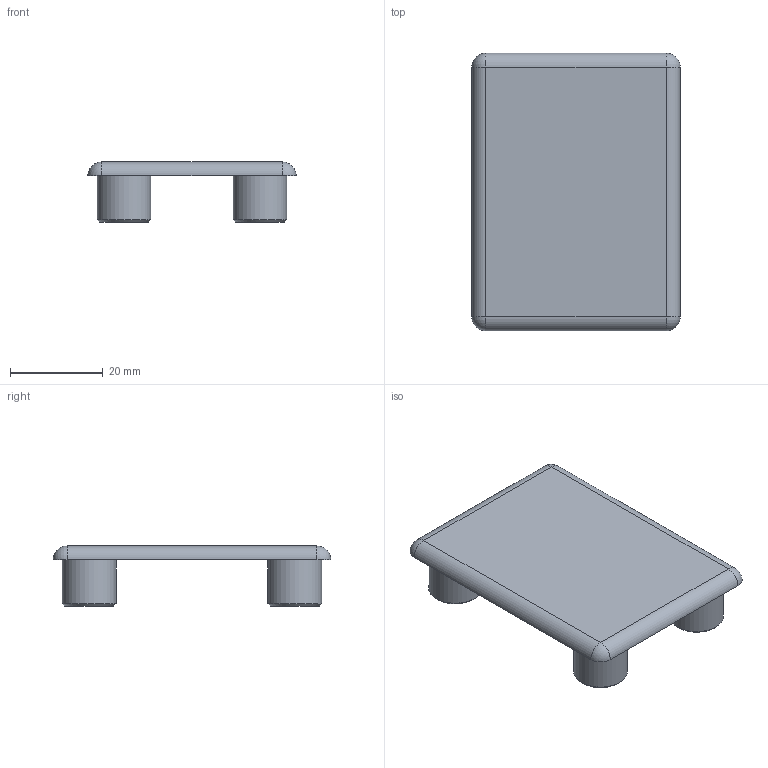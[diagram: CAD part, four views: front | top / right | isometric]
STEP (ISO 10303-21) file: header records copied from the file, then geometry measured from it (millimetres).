
FILE_DESCRIPTION (( 'STEP AP214' ), '1' );
FILE_NAME ('SL01006.step', '2024-12-03T16:30:06', ( '' ), ( '' ), 'SwSTEP 2.0', 'SolidWorks 2023', '' );
FILE_SCHEMA (( 'AUTOMOTIVE_DESIGN' ));
Length unit declared in the file: millimetre
Products named in the file (1): SL01006
Bounding box: 45 x 60 x 13 mm (x, y, z)
Volume: 8757.3 mm3; surface area: 8402 mm2
Topology: 1 solids, 1 shells, 32 faces, 63 edges, 38 vertices
Faces by surface type: cylinder 13, plane 11, sphere 4, cone 4
Full cylindrical faces by diameter (mm): 1 x1, 10 x4, 11.6 x4
Entity records: 727 total; most frequent: DIRECTION 142, CARTESIAN_POINT 109, ORIENTED_EDGE 84, AXIS2_PLACEMENT_3D 67, EDGE_LOOP 54, EDGE_CURVE 42, FACE_OUTER_BOUND 41, CIRCLE 34
